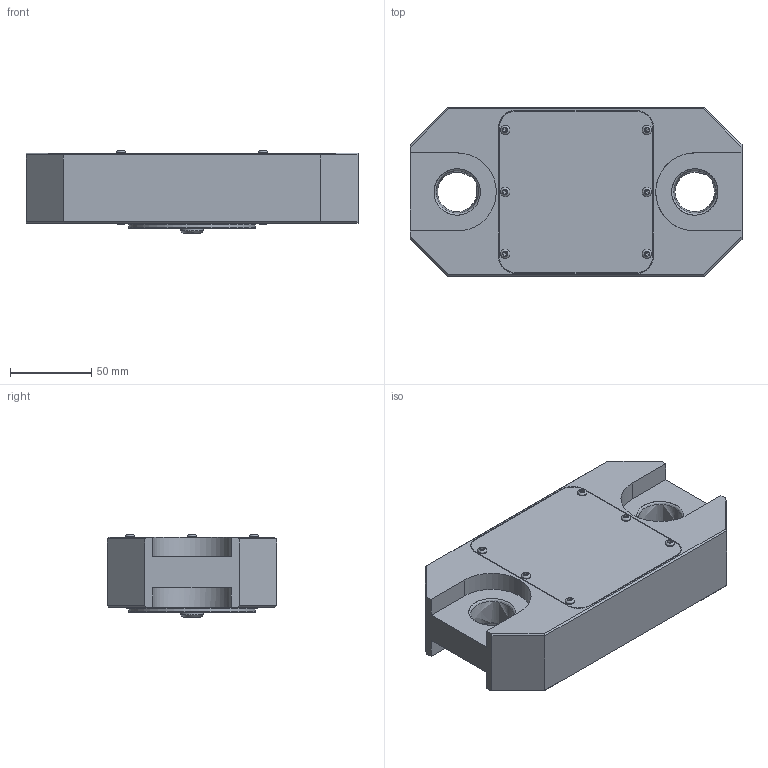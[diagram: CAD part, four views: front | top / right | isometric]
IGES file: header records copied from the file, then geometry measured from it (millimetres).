
Global section: file name: RLP2T5; native system: Autodesk Inventor 2016; preprocessor: unknown; author: rdivakaran; date: 20180811.114251; units: millimetre
Bounding box: 204 x 104 x 50.82 mm (x, y, z)
Volume: 548844.8 mm3; surface area: 222659.6 mm2
Topology: 67 solids, 67 shells, 3949 faces, 10169 edges, 6624 vertices
Faces by surface type: bspline 3949
